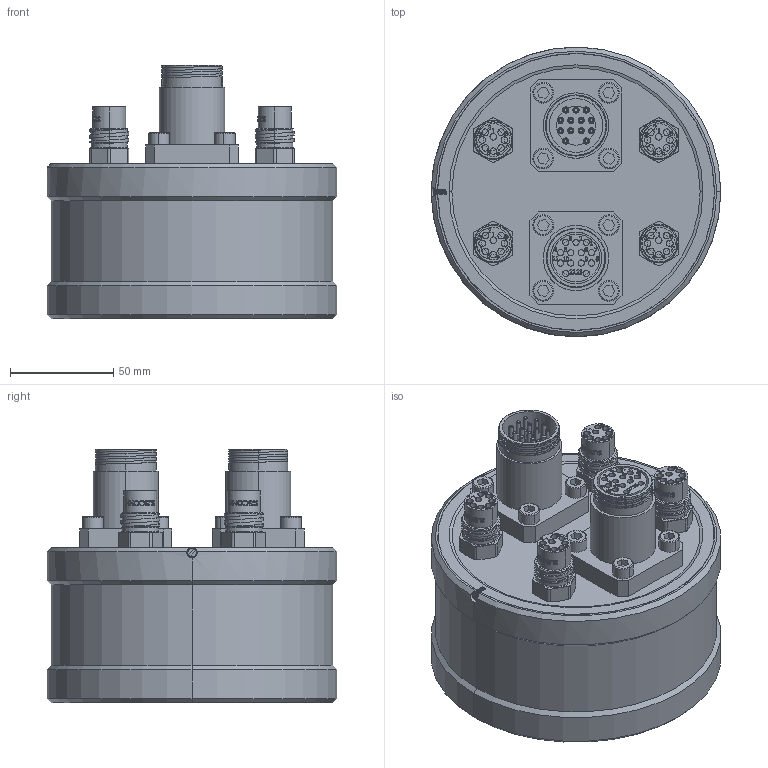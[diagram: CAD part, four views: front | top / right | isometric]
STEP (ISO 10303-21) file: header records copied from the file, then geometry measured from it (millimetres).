
FILE_DESCRIPTION (( 'STEP AP214' ), '1' );
FILE_NAME ('seamux.STEP', '2026-06-29T18:41:17', ( '' ), ( '' ), 'SwSTEP 2.0', 'SolidWorks 2017', '' );
FILE_SCHEMA (( 'AUTOMOTIVE_DESIGN' ));
Length unit declared in the file: millimetre
Products named in the file (1): seamux
Bounding box: 140 x 140 x 122.5 mm (x, y, z)
Surface area: 102074.4 mm2 (no closed solid volume)
Topology: 0 solids, 47 shells, 979 faces, 4215 edges, 3220 vertices
Faces by surface type: cylinder 406, plane 287, bspline 174, cone 96, torus 16
Entity records: 80754 total; most frequent: CARTESIAN_POINT 39920, ORIENTED_EDGE 6070, DIRECTION 4879, EDGE_CURVE 4215, VERTEX_POINT 3220, VECTOR 1819, LINE 1819, AXIS2_PLACEMENT_3D 1530
